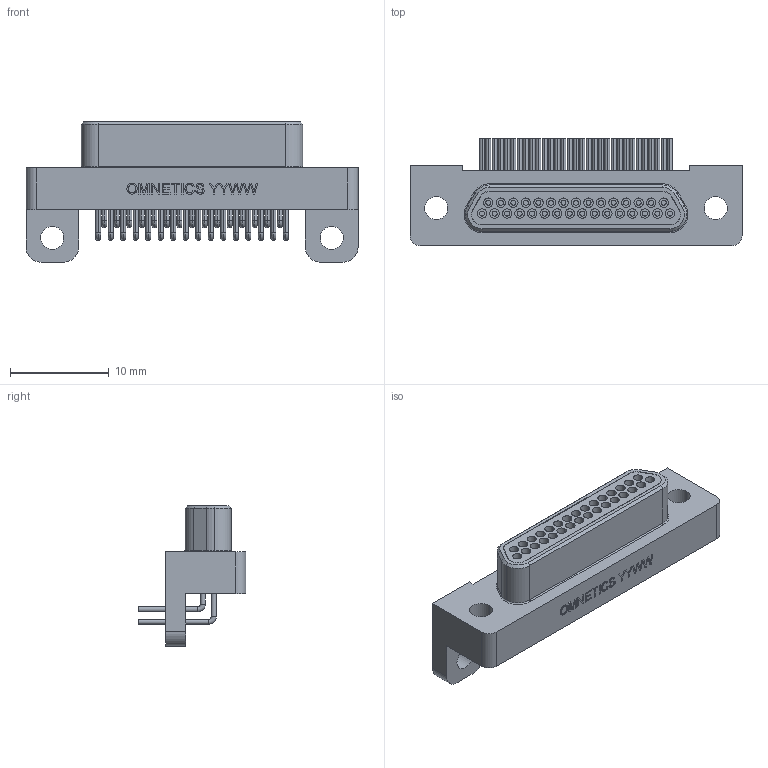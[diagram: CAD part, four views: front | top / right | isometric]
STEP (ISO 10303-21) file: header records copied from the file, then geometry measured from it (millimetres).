
FILE_DESCRIPTION (( 'STEP AP214' ), '1' );
FILE_NAME ('A98055-031 REV B.STEP', '2021-01-20T20:04:49', ( '' ), ( '' ), 'SwSTEP 2.0', 'SolidWorks 2019', '' );
FILE_SCHEMA (( 'AUTOMOTIVE_DESIGN' ));
Length unit declared in the file: inch
Products named in the file (1): A98055-031 REV B
Bounding box: 33.66 x 10.93 x 14.22 mm (x, y, z)
Volume: 1407.2 mm3; surface area: 3386.1 mm2
Topology: 1 solids, 2 shells, 880 faces, 2043 edges, 1273 vertices
Faces by surface type: cylinder 433, plane 259, torus 67, cone 67, bspline 54
Entity records: 39295 total; most frequent: CARTESIAN_POINT 7241, DIRECTION 4515, ORIENTED_EDGE 4074, EDGE_CURVE 2037, AXIS2_PLACEMENT_3D 1767, VERTEX_POINT 1273, EDGE_LOOP 1062, LINE 981
